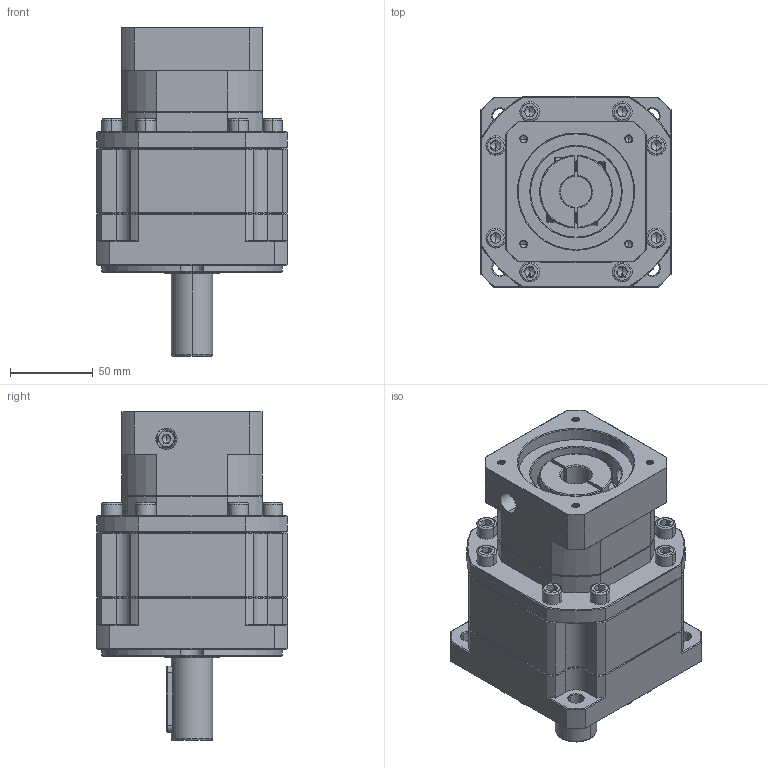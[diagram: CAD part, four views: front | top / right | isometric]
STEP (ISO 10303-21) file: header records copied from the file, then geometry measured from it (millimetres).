
FILE_DESCRIPTION (( 'STEP AP214' ), '1' );
FILE_NAME ('ZB115A-D25-L2-19-70-90-M5.step', '2023-03-03T09:52:09', ( '' ), ( 'Microsoft' ), 'SwSTEP 2.0', 'SolidWorks 2016', '' );
FILE_SCHEMA (( 'AUTOMOTIVE_DESIGN' ));
Length unit declared in the file: millimetre
Products named in the file (1): ZB115A-D25-L2-19-70-90-M5
Bounding box: 115 x 115 x 199 mm (x, y, z)
Volume: 1361360.7 mm3; surface area: 130974.1 mm2
Topology: 5 solids, 5 shells, 2103 faces, 5461 edges, 3452 vertices
Faces by surface type: plane 1000, cylinder 419, bspline 344, cone 340
Entity records: 111498 total; most frequent: CARTESIAN_POINT 39961, ORIENTED_EDGE 10846, DIRECTION 8792, EDGE_CURVE 5423, VERTEX_POINT 3452, LINE 3398, VECTOR 3398, AXIS2_PLACEMENT_3D 2697
